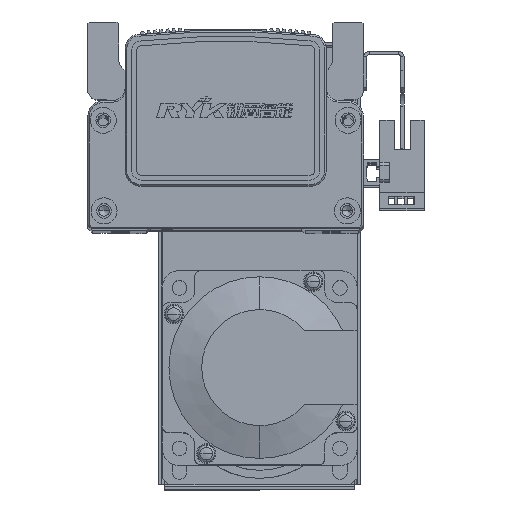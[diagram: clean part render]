
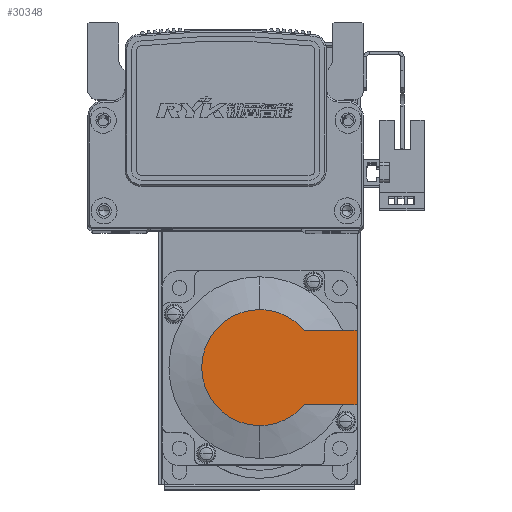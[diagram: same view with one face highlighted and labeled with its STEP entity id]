
A CAD part, top view. The second image highlights one B-rep face of the part: STEP entity #30348.
In plain terms, the highlighted planar face has unit normal (0, 0, 1) as drawn and (-1, 0, 0) by its records, which use the part's own axes.
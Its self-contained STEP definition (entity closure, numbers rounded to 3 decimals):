
#5521 = CARTESIAN_POINT ( 'NONE',  ( -99., 0., 0. ) ) ;
#5522 = DIRECTION ( 'NONE',  ( -1., 0., 0. ) ) ;
#5543 = DIRECTION ( 'NONE',  ( 0., 0., -1. ) ) ;
#5656 = CARTESIAN_POINT ( 'NONE',  ( -99., 0., 0. ) ) ;
#5668 = DIRECTION ( 'NONE',  ( -1., 0., 0. ) ) ;
#5703 = DIRECTION ( 'NONE',  ( 0., 0., -1. ) ) ;
#6332 = AXIS2_PLACEMENT_3D ( 'NONE', #5656, #5668, #5703 ) ;
#6349 = AXIS2_PLACEMENT_3D ( 'NONE', #5521, #5522, #5543 ) ;
#6437 = AXIS2_PLACEMENT_3D ( 'NONE', #58029, #58043, #58028 ) ;
#10720 = VERTEX_POINT ( 'NONE', #43425 ) ;
#10800 = VERTEX_POINT ( 'NONE', #43683 ) ;
#10807 = VERTEX_POINT ( 'NONE', #43599 ) ;
#11005 = VERTEX_POINT ( 'NONE', #44023 ) ;
#11070 = VERTEX_POINT ( 'NONE', #44050 ) ;
#11073 = VERTEX_POINT ( 'NONE', #44132 ) ;
#24233 = DIRECTION ( 'NONE',  ( -1., 0., 0. ) ) ;
#24234 = DIRECTION ( 'NONE',  ( 0., 0., 1. ) ) ;
#24261 = PLANE ( 'NONE',  #46419 ) ;
#24263 = CARTESIAN_POINT ( 'NONE',  ( -99., -8.941, 0. ) ) ;
#24984 = FACE_OUTER_BOUND ( 'NONE', #36900, .T. ) ;
#30348 = ADVANCED_FACE ( 'NONE', ( #24984 ), #24261, .T. ) ;
#36900 = EDGE_LOOP ( 'NONE', ( #56292, #56516, #56359, #56347, #56401, #56432 ) ) ;
#43425 = CARTESIAN_POINT ( 'NONE',  ( -99., 0., -17.881 ) ) ;
#43599 = CARTESIAN_POINT ( 'NONE',  ( -99., 0., 17.881 ) ) ;
#43683 = CARTESIAN_POINT ( 'NONE',  ( -99., 13.735, 11.45 ) ) ;
#44023 = CARTESIAN_POINT ( 'NONE',  ( -99., 30., 11.45 ) ) ;
#44050 = CARTESIAN_POINT ( 'NONE',  ( -99., 30., -11.45 ) ) ;
#44132 = CARTESIAN_POINT ( 'NONE',  ( -99., 13.735, -11.45 ) ) ;
#46419 = AXIS2_PLACEMENT_3D ( 'NONE', #24263, #24233, #24234 ) ;
#51053 = CIRCLE ( 'NONE', #6349, 17.881 ) ;
#51104 = CIRCLE ( 'NONE', #6332, 17.881 ) ;
#53627 = EDGE_CURVE ( 'NONE', #10807, #10800, #51053, .T. ) ;
#53684 = EDGE_CURVE ( 'NONE', #10720, #10807, #51104, .T. ) ;
#53952 = EDGE_CURVE ( 'NONE', #11005, #10800, #54885, .T. ) ;
#53965 = EDGE_CURVE ( 'NONE', #11073, #10720, #54905, .T. ) ;
#53992 = EDGE_CURVE ( 'NONE', #11070, #11005, #54928, .T. ) ;
#54034 = EDGE_CURVE ( 'NONE', #11070, #11073, #55050, .T. ) ;
#54883 = VECTOR ( 'NONE', #57989, 1000. ) ;
#54885 = LINE ( 'NONE', #57984, #54883 ) ;
#54905 = CIRCLE ( 'NONE', #6437, 17.881 ) ;
#54928 = LINE ( 'NONE', #58122, #54990 ) ;
#54990 = VECTOR ( 'NONE', #58131, 1000. ) ;
#55050 = LINE ( 'NONE', #58198, #55063 ) ;
#55063 = VECTOR ( 'NONE', #58200, 1000. ) ;
#56292 = ORIENTED_EDGE ( 'NONE', *, *, #54034, .T. ) ;
#56347 = ORIENTED_EDGE ( 'NONE', *, *, #53627, .T. ) ;
#56359 = ORIENTED_EDGE ( 'NONE', *, *, #53684, .T. ) ;
#56401 = ORIENTED_EDGE ( 'NONE', *, *, #53952, .F. ) ;
#56432 = ORIENTED_EDGE ( 'NONE', *, *, #53992, .F. ) ;
#56516 = ORIENTED_EDGE ( 'NONE', *, *, #53965, .T. ) ;
#57984 = CARTESIAN_POINT ( 'NONE',  ( -99., 0., 11.45 ) ) ;
#57989 = DIRECTION ( 'NONE',  ( 0., -1., 0. ) ) ;
#58028 = DIRECTION ( 'NONE',  ( 0., 0., -1. ) ) ;
#58029 = CARTESIAN_POINT ( 'NONE',  ( -99., 0., 0. ) ) ;
#58043 = DIRECTION ( 'NONE',  ( -1., 0., 0. ) ) ;
#58122 = CARTESIAN_POINT ( 'NONE',  ( -99., 30., 25. ) ) ;
#58131 = DIRECTION ( 'NONE',  ( 0., 0., 1. ) ) ;
#58198 = CARTESIAN_POINT ( 'NONE',  ( -99., -8.941, -11.45 ) ) ;
#58200 = DIRECTION ( 'NONE',  ( 0., -1., 0. ) ) ;
